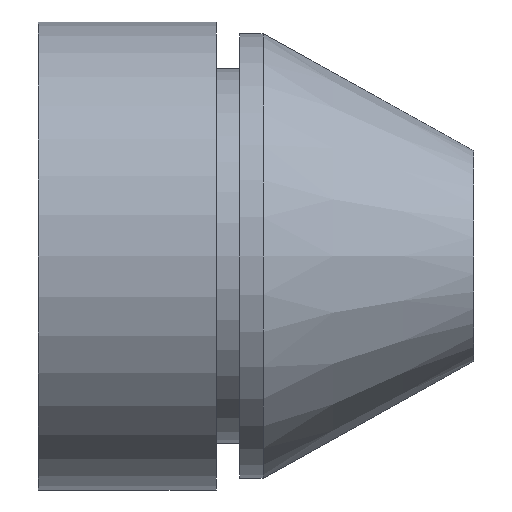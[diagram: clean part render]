
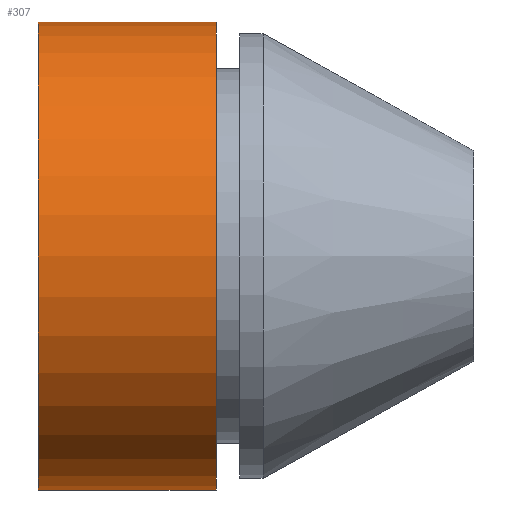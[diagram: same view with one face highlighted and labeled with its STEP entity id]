
A CAD part, left-side view. The second image highlights one B-rep face of the part: STEP entity #307.
In plain terms, the highlighted cylindrical face has radius 10 mm (diameter 20 mm), a partial arc.
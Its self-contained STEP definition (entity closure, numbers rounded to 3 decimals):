
#9 = VERTEX_POINT ( 'NONE', #266 ) ;
#19 = LINE ( 'NONE', #197, #53 ) ;
#21 = ORIENTED_EDGE ( 'NONE', *, *, #68, .F. ) ;
#22 = CIRCLE ( 'NONE', #114, 10. ) ;
#26 = ORIENTED_EDGE ( 'NONE', *, *, #91, .T. ) ;
#29 = VECTOR ( 'NONE', #243, 1000. ) ;
#32 = CIRCLE ( 'NONE', #115, 10. ) ;
#35 = VERTEX_POINT ( 'NONE', #267 ) ;
#46 = VERTEX_POINT ( 'NONE', #269 ) ;
#51 = LINE ( 'NONE', #244, #29 ) ;
#53 = VECTOR ( 'NONE', #192, 1000. ) ;
#54 = VERTEX_POINT ( 'NONE', #271 ) ;
#67 = EDGE_CURVE ( 'NONE', #35, #54, #22, .T. ) ;
#68 = EDGE_CURVE ( 'NONE', #46, #9, #32, .T. ) ;
#79 = CYLINDRICAL_SURFACE ( 'NONE', #134, 10. ) ;
#83 = FACE_OUTER_BOUND ( 'NONE', #354, .T. ) ;
#91 = EDGE_CURVE ( 'NONE', #54, #9, #51, .T. ) ;
#104 = EDGE_CURVE ( 'NONE', #35, #46, #19, .T. ) ;
#114 = AXIS2_PLACEMENT_3D ( 'NONE', #175, #173, #172 ) ;
#115 = AXIS2_PLACEMENT_3D ( 'NONE', #251, #252, #249 ) ;
#134 = AXIS2_PLACEMENT_3D ( 'NONE', #202, #200, #203 ) ;
#172 = DIRECTION ( 'NONE',  ( 0., 0., -1. ) ) ;
#173 = DIRECTION ( 'NONE',  ( 0., -1., 0. ) ) ;
#175 = CARTESIAN_POINT ( 'NONE',  ( 0., 18.6, 0. ) ) ;
#192 = DIRECTION ( 'NONE',  ( 0., -1., 0. ) ) ;
#197 = CARTESIAN_POINT ( 'NONE',  ( 0., 0., 10. ) ) ;
#200 = DIRECTION ( 'NONE',  ( 0., -1., 0. ) ) ;
#202 = CARTESIAN_POINT ( 'NONE',  ( 0., 0., 0. ) ) ;
#203 = DIRECTION ( 'NONE',  ( 0., 0., -1. ) ) ;
#243 = DIRECTION ( 'NONE',  ( 0., -1., 0. ) ) ;
#244 = CARTESIAN_POINT ( 'NONE',  ( 0., 0., -10. ) ) ;
#249 = DIRECTION ( 'NONE',  ( 0., 0., -1. ) ) ;
#251 = CARTESIAN_POINT ( 'NONE',  ( 0., 11., 0. ) ) ;
#252 = DIRECTION ( 'NONE',  ( 0., -1., 0. ) ) ;
#266 = CARTESIAN_POINT ( 'NONE',  ( 0., 11., -10. ) ) ;
#267 = CARTESIAN_POINT ( 'NONE',  ( 0., 18.6, 10. ) ) ;
#269 = CARTESIAN_POINT ( 'NONE',  ( 0., 11., 10. ) ) ;
#271 = CARTESIAN_POINT ( 'NONE',  ( 0., 18.6, -10. ) ) ;
#307 = ADVANCED_FACE ( 'NONE', ( #83 ), #79, .T. ) ;
#321 = ORIENTED_EDGE ( 'NONE', *, *, #67, .T. ) ;
#333 = ORIENTED_EDGE ( 'NONE', *, *, #104, .F. ) ;
#354 = EDGE_LOOP ( 'NONE', ( #333, #321, #26, #21 ) ) ;
